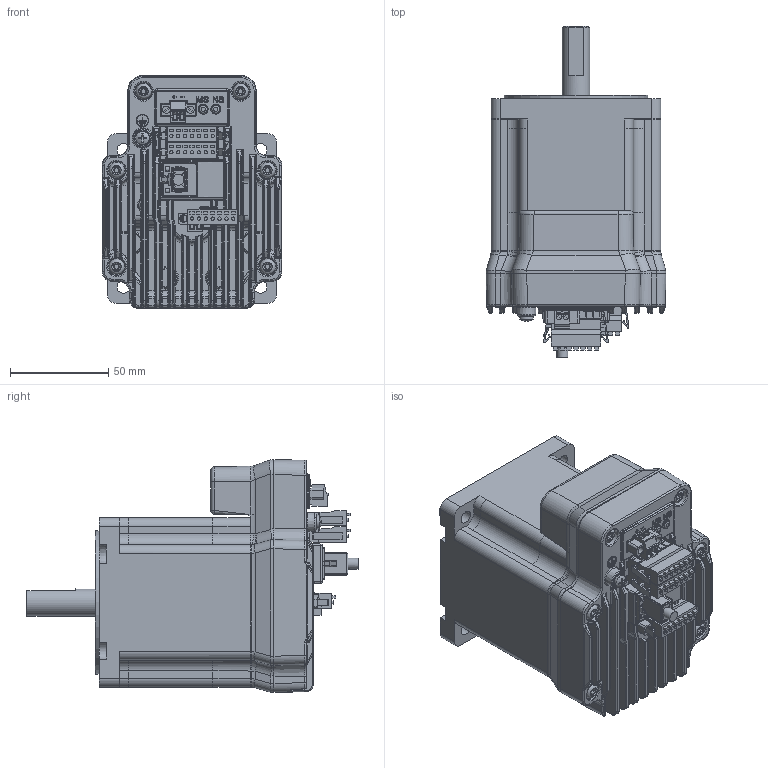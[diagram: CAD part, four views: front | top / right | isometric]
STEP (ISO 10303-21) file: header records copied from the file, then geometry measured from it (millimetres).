
FILE_DESCRIPTION(('LMDXE85 Double-Stack Web Model.stp'),'1');
FILE_NAME('T:/Kubotek Models For Design Assemblies/On-Line web models/LMD34/LMDXE85 Double-Stack Web Model.stp', '2013-04-05T15:09:56',('P. Bordua, 04/05/13'), ('Schneider Electric Motion USA'), 'KCM Version 1.1.514.0', 'Kubotek KeyCreator', 'Kubotek KeyCreator 2012 11.3.1');
FILE_SCHEMA(('AUTOMOTIVE_DESIGN'));
Length unit declared in the file: inch
Bounding box: 91.24 x 168.57 x 118.13 mm (x, y, z)
Volume: 823367.6 mm3; surface area: 98500.8 mm2
Topology: 9 solids, 9 shells, 4727 faces, 11955 edges, 7505 vertices
Faces by surface type: plane 2601, cylinder 1115, bspline 784, sphere 87, torus 78, cone 60, extrusion 2
Full cylindrical faces by diameter (mm): 1.6 x31, 1.611 x4, 1.686 x28, 2.5 x2, 3.505 x1, 3.792 x4, 5.004 x2, 5.588 x2, 6.502 x4, 6.858 x1, 7.62 x1, 8 x6, 9.006 x3, 14 x1, 15.748 x1, 66.396 x1, 73 x1
Entity records: 179247 total; most frequent: CARTESIAN_POINT 83009, ORIENTED_EDGE 18428, DIRECTION 16568, EDGE_CURVE 9214, VERTEX_POINT 5745, AXIS2_PLACEMENT_3D 5534, VECTOR 5500, LINE 5498
